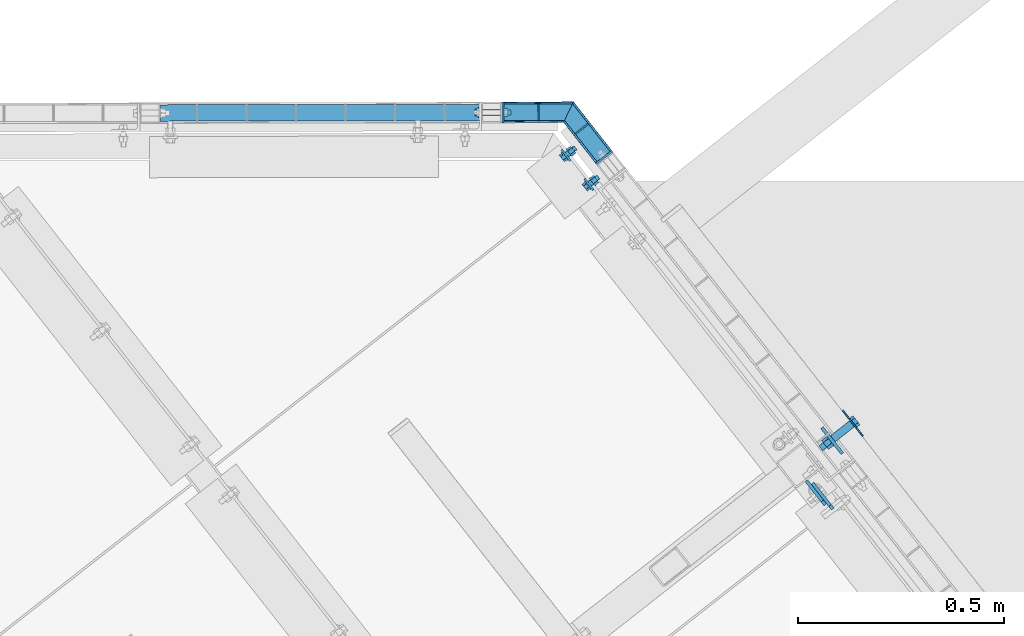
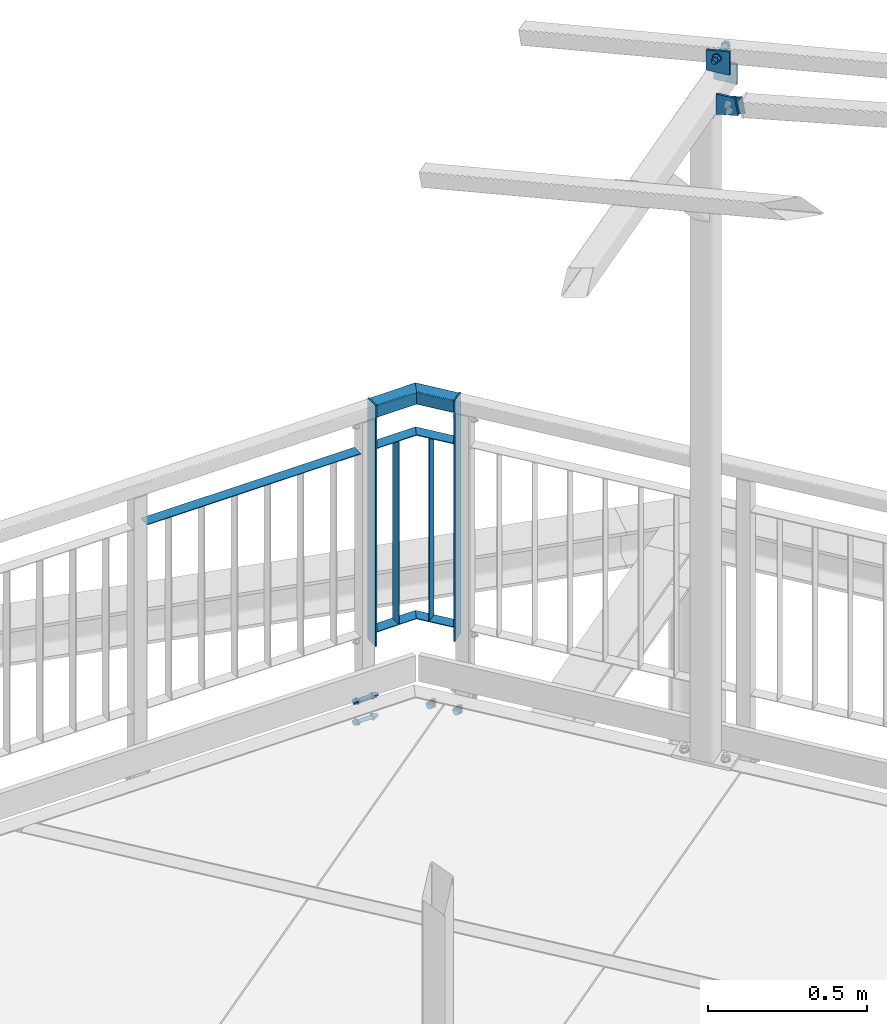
# One storey, part 131 of 169: 15 discrete accessories, 3 mechanical fasteners, 5 elements without a shape of their own.
"""IFC2X3 building model written with IfcOpenShell, lengths in millimetres."""

from ifc_helpers import new_model, si_unit, frame, frame_2d, origin_with_axes, origin_2d_with_axis, place, context, subcontext, project, spatial, polyline, circle_curve, parameter, trimmed, segment, composite_curve, rectangle, hollow_rectangle, circle, outline, extrude, boolean, clip, halfspace, source, transform, mapped, material, type_object, element, aggregate, save


model = new_model("IFC2X3")

# Units and contexts
model_context = context("Model", 3, precision=1e-05, world=origin_with_axes())
body_context = subcontext(model_context, "Body", "Model", "MODEL_VIEW")
ifc_project = project(units=[si_unit("LENGTHUNIT", "METRE", prefix="MILLI"), si_unit("AREAUNIT", "SQUARE_METRE"), si_unit("VOLUMEUNIT", "CUBIC_METRE"), si_unit("MASSUNIT", "GRAM", prefix="KILO"), si_unit("TIMEUNIT", "SECOND"), si_unit("PLANEANGLEUNIT", "RADIAN"), si_unit("SOLIDANGLEUNIT", "STERADIAN"), si_unit("THERMODYNAMICTEMPERATUREUNIT", "DEGREE_CELSIUS"), si_unit("LUMINOUSINTENSITYUNIT", "LUMEN")], contexts=[model_context])

# Site, building, storey
site_placement = place(None, origin_with_axes())
site = spatial("IfcSite", under=ifc_project, at=site_placement, Name="Undefined", CompositionType="ELEMENT")
building_placement = place(site_placement, origin_with_axes())
building = spatial("IfcBuilding", under=site, at=building_placement, Name="Undefined", CompositionType="ELEMENT")
storey_placement = place(building_placement, origin_with_axes())
storey = spatial("IfcBuildingStorey", under=building, at=storey_placement, Name="Undefined", CompositionType="ELEMENT", Elevation=0.0)

# Assembly, discrete accessories
assembly_1_placement = place(storey_placement, origin_with_axes())
assembly_1 = element("IfcElementAssembly", 1, at=assembly_1_placement, inside=storey, Name="Steel Assembly", AssemblyPlace="NOTDEFINED", PredefinedType="RIGID_FRAME")
ifc_material_1 = material(Name="STEEL/S235")
discrete_accessory_type_1 = type_object("IfcDiscreteAccessoryType", Name="BLACHA")
discrete_accessory_1_placement = place(assembly_1_placement, frame((21289.8657624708, 2194.79731966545, 13969.4175258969), z_axis=(-0.617242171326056, 0.786773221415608, 5.09999997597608e-08), x_axis=(-0.7867732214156, -0.61724217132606, -1.0406294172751e-07)))
discrete_accessory_1 = element("IfcDiscreteAccessory", 2, at=discrete_accessory_1_placement, type_object=discrete_accessory_type_1, material=ifc_material_1, Name="BLACHA", ObjectType="BL5*50", context=body_context, shape_type="SweptSolid", body=[
    extrude(outline(polyline([(0.0, 0.0), (50.0000000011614, 3.27418092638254e-11), (50.0000000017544, 926.000000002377), (3.10365066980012e-08, 926.000000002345), (0.0, 0.0)])), frame((6.80888809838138e-19, -2.87858853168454e-21, -2.49999999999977), z_axis=(0.0, 0.0, 1.0), x_axis=(1.0, 0.0, 0.0)), (0.0, 0.0, 1.0), 5.0),
])
discrete_accessory_2_placement = place(assembly_1_placement, frame((21024.910128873, 2313.31332923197, 13969.0829160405), z_axis=(-0.999998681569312, -0.00162384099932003, -2.17981851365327e-07), x_axis=(0.00162384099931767, -0.999998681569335, 1.10000109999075e-08)))
discrete_accessory_2 = element("IfcDiscreteAccessory", 3, at=discrete_accessory_2_placement, type_object=discrete_accessory_type_1, material=ifc_material_1, Name="BLACHA", ObjectType="BL5*50", context=body_context, shape_type="SweptSolid", body=[
    extrude(outline(polyline([(0.0, 0.0), (50.0000000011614, 3.27418092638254e-11), (50.0000000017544, 926.000000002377), (3.10365066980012e-08, 926.000000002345), (0.0, 0.0)])), frame((6.80888809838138e-19, -2.87858853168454e-21, -2.49999999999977), z_axis=(0.0, 0.0, 1.0), x_axis=(1.0, 0.0, 0.0)), (0.0, 0.0, 1.0), 5.0),
])

# Assembly, discrete accessory
assembly_2_placement = place(storey_placement, origin_with_axes())
assembly_2 = element("IfcElementAssembly", 4, at=assembly_2_placement, inside=storey, Name="Steel Assembly", AssemblyPlace="NOTDEFINED", PredefinedType="RIGID_FRAME")
discrete_accessory_3_placement = place(assembly_2_placement, frame((21798.1580663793, 1524.45016189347, 16364.2281772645), z_axis=(-0.7867732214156, -0.61724217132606, -1.0406294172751e-07), x_axis=(0.617242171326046, -0.786773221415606, 1.36000016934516e-07)))
discrete_accessory_3 = element("IfcDiscreteAccessory", 5, at=discrete_accessory_3_placement, type_object=discrete_accessory_type_1, material=ifc_material_1, Name="BLACHA", ObjectType="BL8*80", context=body_context, shape_type="SweptSolid", body=[
    extrude(outline(polyline([(0.0, 0.0), (80.0000000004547, 5.02041075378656e-10), (80.0000000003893, 89.9999999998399), (-2.08646997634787e-06, 77.0), (0.0, 0.0)])), frame((1.81942236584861e-12, -3.63797880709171e-12, -4.00000000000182), z_axis=(0.0, 0.0, 1.0), x_axis=(1.0, 0.0, 0.0)), (0.0, 0.0, 1.0), 8.0),
])

assembly_3_placement = place(storey_placement, origin_with_axes())
assembly_3 = element("IfcElementAssembly", 6, at=assembly_3_placement, inside=storey, Name="Steel Assembly", AssemblyPlace="NOTDEFINED", PredefinedType="RIGID_FRAME")
discrete_accessory_4_placement = place(assembly_3_placement, frame((21781.9768415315, 1381.2110054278, 16292.3305855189), z_axis=(0.786773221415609, 0.617242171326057, 0.0), x_axis=(-0.111881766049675, 0.142611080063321, 0.983435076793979)))
discrete_accessory_4 = element("IfcDiscreteAccessory", 7, at=discrete_accessory_4_placement, type_object=discrete_accessory_type_1, material=ifc_material_1, Name="BLACHA", ObjectType="BL8*60", context=body_context, shape_type="SweptSolid", body=[
    extrude(outline(polyline([(0.0, 0.0), (60.0000000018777, -8.8220986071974e-11), (60.0000000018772, 69.999999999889), (1.4915713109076e-10, 69.9999999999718), (0.0, 0.0)])), frame((1.81942236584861e-12, -3.63797880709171e-12, -4.00000000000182), z_axis=(0.0, 0.0, 1.0), x_axis=(1.0, 0.0, 0.0)), (0.0, 0.0, 1.0), 8.0),
])
aggregate(assembly_3, [discrete_accessory_4])

# Discrete accessory
discrete_accessory_5_placement = place(assembly_2_placement, frame((21760.1858504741, 1396.02620870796, 16285.160995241), z_axis=(0.786773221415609, 0.617242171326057, 0.0), x_axis=(0.0, 0.0, 1.0)))
discrete_accessory_5 = element("IfcDiscreteAccessory", 8, at=discrete_accessory_5_placement, type_object=discrete_accessory_type_1, material=ifc_material_1, Name="BLACHA", ObjectType="BL8*75", context=body_context, shape_type="SweptSolid", body=[
    extrude(outline(polyline([(0.0, 0.0), (77.697319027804, 2.60843080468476e-09), (77.6973190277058, 62.949481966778), (13.7740383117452, 74.7314300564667), (0.0, 0.0)])), frame((1.81942236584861e-12, -3.63797880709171e-12, -4.00000000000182), z_axis=(0.0, 0.0, 1.0), x_axis=(1.0, 0.0, 0.0)), (0.0, 0.0, 1.0), 8.0),
])

discrete_accessory_6_placement = place(assembly_2_placement, frame((21897.4777573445, 1503.73495867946, 16364.2281930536), z_axis=(-0.7867732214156, -0.61724217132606, -1.0406294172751e-07), x_axis=(-0.617242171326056, 0.786773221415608, 5.09999997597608e-08)))
discrete_accessory_6 = element("IfcDiscreteAccessory", 9, at=discrete_accessory_6_placement, type_object=discrete_accessory_type_1, material=ifc_material_1, Name="BLACHA", ObjectType="BL3*80", context=body_context, shape_type="SweptSolid", body=[
    extrude(outline(polyline([(0.0, 0.0), (80.0000000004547, 5.02041075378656e-10), (80.0000000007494, 80.0000000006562), (1.40171323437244e-08, 80.0000000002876), (0.0, 0.0)])), frame((1.81898940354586e-12, -1.77635442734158e-15, -1.50000000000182), z_axis=(0.0, 0.0, 1.0), x_axis=(1.0, 0.0, 0.0)), (0.0, 0.0, 1.0), 3.0),
])

discrete_accessory_type_2 = type_object("IfcDiscreteAccessoryType", Name="PORĘCZ")
discrete_accessory_7_placement = place(assembly_1_placement, frame((20997.453236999, 2288.26849008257, 14870.1939115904), z_axis=(0.0058959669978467, -0.999982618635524, 2.99999919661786e-09), x_axis=(0.999982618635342, 0.00589596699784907, 6.02999999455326e-07)))
discrete_accessory_7 = element("IfcDiscreteAccessory", 10, at=discrete_accessory_7_placement, type_object=discrete_accessory_type_2, material=ifc_material_1, Name="PORĘCZ", ObjectType="RHS50*3", context=body_context, shape_type="CSG", body=[
    boolean("DIFFERENCE", boolean("DIFFERENCE", boolean("DIFFERENCE", extrude(hollow_rectangle(XDim=50.0, YDim=50.0, WallThickness=3.0, InnerFilletRadius=3.0, OuterFilletRadius=6.0, at=origin_2d_with_axis()), frame((199.013606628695, -1.81898938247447e-12, 1.09515241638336e-16), z_axis=(-1.0, -3.46944695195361e-18, -1.38777878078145e-17), x_axis=(1.73472347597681e-18, -1.0, 0.0)), (0.0, 0.0, 1.0), 169.02), extrude(rectangle(XDim=51.0, YDim=51.0, at=origin_2d_with_axis()), frame((6.11825301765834e-05, 140.000000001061, 3.99186644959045e-07), z_axis=(1.73472347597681e-18, -1.0, 0.0), x_axis=(0.999990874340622, -4.37007533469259e-07, 0.00427214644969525)), (0.0, 0.0, 1.0), 280.0)), halfspace(frame((174.194052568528, -7.45715260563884e-06, 25.000007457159), z_axis=(0.897939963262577, -1.31576074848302e-07, 0.440117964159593), x_axis=(0.0, 1.0, 0.0)), False)), halfspace(frame((25.7254647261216, -1.1155480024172e-06, 1000.00155470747), z_axis=(0.999990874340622, -4.37007533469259e-07, 0.00427214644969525), x_axis=(0.0, 1.0, 0.0)), True)),
])

discrete_accessory_8_placement = place(assembly_1_placement, frame((21116.8116190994, 2374.8795197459, 14870.1940164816), z_axis=(-0.7867732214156, -0.61724217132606, -1.0406294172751e-07), x_axis=(0.617242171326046, -0.786773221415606, 1.36000016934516e-07)))
discrete_accessory_8 = element("IfcDiscreteAccessory", 11, at=discrete_accessory_8_placement, type_object=discrete_accessory_type_2, material=ifc_material_1, Name="PORĘCZ", ObjectType="RHS50*3", context=body_context, shape_type="CSG", body=[
    boolean("DIFFERENCE", boolean("DIFFERENCE", boolean("DIFFERENCE", extrude(hollow_rectangle(XDim=50.0, YDim=50.0, WallThickness=3.0, InnerFilletRadius=3.0, OuterFilletRadius=6.0, at=origin_2d_with_axis()), frame((246.000017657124, -1.81898940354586e-12, 3.64763719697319e-12), z_axis=(-1.0, -3.46944695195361e-18, -1.38777878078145e-17), x_axis=(1.73472347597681e-18, -1.0, 0.0)), (0.0, 0.0, 1.0), 189.31), extrude(rectangle(XDim=51.0, YDim=51.0, at=origin_2d_with_axis()), frame((276.00000467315, 140.000000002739, -6.08064044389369e-06), z_axis=(1.73472347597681e-18, -1.0, 0.0), x_axis=(1.0, 0.0, 0.0)), (0.0, 0.0, 1.0), 280.0)), halfspace(frame((246.000017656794, -7.43093551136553e-08, 1000.00000000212), z_axis=(-1.0, -3.46944695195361e-18, -1.38777878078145e-17), x_axis=(1.73472347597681e-18, -1.0, 0.0)), True)), halfspace(frame((120.940184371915, -1.93322121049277e-05, 25.0000120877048), z_axis=(0.897940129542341, 2.1250175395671e-07, -0.440117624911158), x_axis=(0.0, 1.0, 0.0)), True)),
])

discrete_accessory_9_placement = place(assembly_1_placement, frame((20997.4532610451, 2288.26849008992, 14725.4170007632), z_axis=(-2.54700353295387e-10, 0.0, -1.0), x_axis=(0.999982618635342, 0.00589596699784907, 6.02999999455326e-07)))
discrete_accessory_9 = element("IfcDiscreteAccessory", 12, at=discrete_accessory_9_placement, type_object=discrete_accessory_type_2, material=ifc_material_1, Name="PORĘCZ", ObjectType="BL40*3", context=body_context, shape_type="CSG", body=[
    boolean("DIFFERENCE", boolean("DIFFERENCE", boolean("DIFFERENCE", boolean("DIFFERENCE", extrude(outline(polyline([(29.9122117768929, 19.9999999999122), (176.644769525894, 19.9999999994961), (196.250435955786, -20.0000000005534), (30.0830991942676, -20.0000000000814), (29.9122117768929, 19.9999999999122)])), frame((1.81898940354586e-12, -1.77635442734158e-15, -1.50000000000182), z_axis=(0.0, 0.0, 1.0), x_axis=(1.0, 0.0, 0.0)), (0.0, 0.0, 1.0), 3.0), extrude(rectangle(XDim=51.0, YDim=51.0, at=origin_2d_with_axis()), frame((6.11802382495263e-05, -1.9546552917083e-08, -140.000000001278), z_axis=(0.0, 0.0, 1.0), x_axis=(0.999990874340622, 0.0042721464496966, 4.36994717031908e-07)), (0.0, 0.0, 1.0), 280.0)), halfspace(frame((25.7254634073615, 1000.00155470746, 1.11687586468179e-06), z_axis=(0.999990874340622, 0.0042721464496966, 4.36994717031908e-07), x_axis=(-2.54700353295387e-10, 0.0, -1.0)), True)), halfspace(frame((176.644769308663, 20.0000004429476, 5.90572017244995e-06), z_axis=(0.897940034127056, 0.440117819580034, 1.30255678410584e-07), x_axis=(-2.54700353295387e-10, 0.0, -1.0)), False)), halfspace(frame((20.7275651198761, 1000.09767800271, 1.11496665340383e-05), z_axis=(0.999990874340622, 0.0042721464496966, 4.36994717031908e-07), x_axis=(-2.54700353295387e-10, 0.0, -1.0)), True)),
])

discrete_accessory_10_placement = place(assembly_1_placement, frame((21111.3801789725, 2288.45341239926, 14870.4174027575), z_axis=(-0.999998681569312, -0.00162384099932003, -2.17981851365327e-07), x_axis=(-2.54700353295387e-10, 0.0, -1.0)))
discrete_accessory_10 = element("IfcDiscreteAccessory", 13, at=discrete_accessory_10_placement, type_object=discrete_accessory_type_2, material=ifc_material_1, Name="PORĘCZ", ObjectType="BL40*3", context=body_context, shape_type="Clipping", body=[
    clip(clip(clip(extrude(outline(polyline([(848.499998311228, 19.9999999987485), (848.49994972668, -20.0000000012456), (146.500332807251, -20.0000000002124), (146.500381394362, 19.9999999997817), (848.499998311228, 19.9999999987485)])), frame((1.81898940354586e-12, -1.77635442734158e-15, -1.50000000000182), z_axis=(0.0, 0.0, 1.0), x_axis=(1.0, 0.0, 0.0)), (0.0, 0.0, 1.0), 3.0), halfspace(frame((146.500339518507, 1000.00000006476, -1.23327481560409e-09), z_axis=(1.0, 0.0, 0.0), x_axis=(-2.54700353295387e-10, 0.0, -1.0)), True)), halfspace(frame((25.3344726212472, 999.999999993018, -4.64569893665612e-09), z_axis=(1.0, 0.0, 0.0), x_axis=(-2.54700353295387e-10, 0.0, -1.0)), True)), halfspace(frame((848.499956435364, 999.999999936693, 2.33558239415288e-09), z_axis=(-1.0, -3.46944695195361e-18, -1.38777878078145e-17), x_axis=(0.0, 0.0, 1.0)), True)),
])

discrete_accessory_11_placement = place(assembly_1_placement, frame((20997.4533202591, 2288.2684146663, 14020.4173838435), z_axis=(-2.54700353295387e-10, 0.0, -1.0), x_axis=(0.999982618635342, 0.00589596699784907, 6.02999999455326e-07)))
discrete_accessory_11 = element("IfcDiscreteAccessory", 14, at=discrete_accessory_11_placement, type_object=discrete_accessory_type_2, material=ifc_material_1, Name="PORĘCZ", ObjectType="BL40*3", context=body_context, shape_type="CSG", body=[
    boolean("DIFFERENCE", boolean("DIFFERENCE", boolean("DIFFERENCE", boolean("DIFFERENCE", extrude(outline(polyline([(29.9122633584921, 19.9999999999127), (176.644769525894, 19.9999999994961), (196.250435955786, -20.0000000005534), (30.0831507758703, -20.0000000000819), (29.9122633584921, 19.9999999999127)])), frame((1.81898940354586e-12, -1.77635442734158e-15, -1.50000000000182), z_axis=(0.0, 0.0, 1.0), x_axis=(1.0, 0.0, 0.0)), (0.0, 0.0, 1.0), 3.0), extrude(rectangle(XDim=51.0, YDim=51.0, at=origin_2d_with_axis()), frame((6.11802382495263e-05, -1.9546552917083e-08, -140.000000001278), z_axis=(0.0, 0.0, 1.0), x_axis=(0.999990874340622, 0.0042721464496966, 4.36994717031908e-07)), (0.0, 0.0, 1.0), 280.0)), halfspace(frame((25.725514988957, 1000.00155470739, 1.11688677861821e-06), z_axis=(0.999990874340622, 0.0042721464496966, 4.36994717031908e-07), x_axis=(-2.54700353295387e-10, 0.0, -1.0)), True)), halfspace(frame((176.644769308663, 20.0000004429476, 5.90572017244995e-06), z_axis=(0.897940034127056, 0.440117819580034, 1.30255678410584e-07), x_axis=(-2.54700353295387e-10, 0.0, -1.0)), False)), halfspace(frame((20.7276167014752, 1000.09767800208, 1.11496865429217e-05), z_axis=(0.999990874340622, 0.0042721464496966, 4.36994717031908e-07), x_axis=(-2.54700353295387e-10, 0.0, -1.0)), True)),
])

discrete_accessory_12_placement = place(assembly_1_placement, frame((21116.811643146, 2374.87951975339, 14725.4171056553), z_axis=(-2.54700353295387e-10, 0.0, -1.0), x_axis=(0.617242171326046, -0.786773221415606, 1.36000016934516e-07)))
discrete_accessory_12 = element("IfcDiscreteAccessory", 15, at=discrete_accessory_12_placement, type_object=discrete_accessory_type_2, material=ifc_material_1, Name="PORĘCZ", ObjectType="BL40*3", context=body_context, shape_type="CSG", body=[
    boolean("DIFFERENCE", boolean("DIFFERENCE", boolean("DIFFERENCE", boolean("DIFFERENCE", extrude(outline(polyline([(118.489475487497, 20.0000000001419), (246.00002696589, 20.0000000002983), (246.000026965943, -19.9999999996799), (98.8838118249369, -19.9999999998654), (118.489475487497, 20.0000000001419)])), frame((1.81898940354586e-12, -1.77635442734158e-15, -1.50000000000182), z_axis=(0.0, 0.0, 1.0), x_axis=(1.0, 0.0, 0.0)), (0.0, 0.0, 1.0), 3.0), extrude(rectangle(XDim=51.0, YDim=51.0, at=origin_2d_with_axis()), frame((276.000004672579, 1.82819056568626e-05, -140.000000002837), z_axis=(0.0, 0.0, 1.0), x_axis=(1.0, 0.0, 0.0)), (0.0, 0.0, 1.0), 280.0)), halfspace(frame((246.000026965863, 999.999999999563, 7.6954165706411e-08), z_axis=(-1.0, -3.46944695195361e-18, -1.38777878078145e-17), x_axis=(0.0, 0.0, 1.0)), True)), halfspace(frame((118.489475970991, 20.000000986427, 2.03955005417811e-05), z_axis=(0.897940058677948, -0.440117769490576, -2.89082312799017e-07), x_axis=(-2.54700353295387e-10, 0.0, -1.0)), True)), halfspace(frame((251.000018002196, 999.999999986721, 0.000130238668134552), z_axis=(-1.0, -3.46944695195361e-18, -1.38777878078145e-17), x_axis=(0.0, 0.0, 1.0)), True)),
])

discrete_accessory_13_placement = place(assembly_1_placement, frame((21215.9941199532, 2248.45551035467, 14870.4175105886), z_axis=(-0.617242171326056, 0.786773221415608, 5.09999997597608e-08), x_axis=(-2.54700353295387e-10, 0.0, -1.0)))
discrete_accessory_13 = element("IfcDiscreteAccessory", 16, at=discrete_accessory_13_placement, type_object=discrete_accessory_type_2, material=ifc_material_1, Name="PORĘCZ", ObjectType="BL40*3", context=body_context, shape_type="Clipping", body=[
    clip(clip(clip(extrude(outline(polyline([(848.499998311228, 19.9999999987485), (848.500000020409, -20.000000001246), (146.500383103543, -20.0000000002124), (146.500381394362, 19.9999999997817), (848.499998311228, 19.9999999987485)])), frame((1.81898940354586e-12, -1.77635442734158e-15, -1.50000000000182), z_axis=(0.0, 0.0, 1.0), x_axis=(1.0, 0.0, 0.0)), (0.0, 0.0, 1.0), 3.0), halfspace(frame((146.500339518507, 1000.00000006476, -1.23327481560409e-09), z_axis=(1.0, 0.0, 0.0), x_axis=(-2.54700353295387e-10, 0.0, -1.0)), True)), halfspace(frame((24.9999999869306, 1000.00000000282, -1.78988557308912e-09), z_axis=(1.0, 0.0, 0.0), x_axis=(-2.54700353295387e-10, 0.0, -1.0)), True)), halfspace(frame((848.499956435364, 999.999999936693, 2.33558239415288e-09), z_axis=(-1.0, -3.46944695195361e-18, -1.38777878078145e-17), x_axis=(0.0, 0.0, 1.0)), True)),
])

discrete_accessory_14_placement = place(assembly_1_placement, frame((21116.8117023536, 2374.87944433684, 14020.4174887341), z_axis=(-2.54700353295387e-10, 0.0, -1.0), x_axis=(0.617242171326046, -0.786773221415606, 1.36000016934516e-07)))
discrete_accessory_14 = element("IfcDiscreteAccessory", 17, at=discrete_accessory_14_placement, type_object=discrete_accessory_type_2, material=ifc_material_1, Name="PORĘCZ", ObjectType="BL40*3", context=body_context, shape_type="CSG", body=[
    boolean("DIFFERENCE", boolean("DIFFERENCE", boolean("DIFFERENCE", boolean("DIFFERENCE", extrude(outline(polyline([(118.489475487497, 20.0000000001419), (246.00002696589, 20.0000000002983), (246.000026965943, -19.9999999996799), (98.8838118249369, -19.9999999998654), (118.489475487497, 20.0000000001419)])), frame((1.81898940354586e-12, -1.77635442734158e-15, -1.50000000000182), z_axis=(0.0, 0.0, 1.0), x_axis=(1.0, 0.0, 0.0)), (0.0, 0.0, 1.0), 3.0), extrude(rectangle(XDim=51.0, YDim=51.0, at=origin_2d_with_axis()), frame((276.000004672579, 1.82819056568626e-05, -140.000000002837), z_axis=(0.0, 0.0, 1.0), x_axis=(1.0, 0.0, 0.0)), (0.0, 0.0, 1.0), 280.0)), halfspace(frame((246.000026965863, 999.999999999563, 7.6954165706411e-08), z_axis=(-1.0, -3.46944695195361e-18, -1.38777878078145e-17), x_axis=(0.0, 0.0, 1.0)), True)), halfspace(frame((118.489475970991, 20.000000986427, 2.03955005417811e-05), z_axis=(0.897940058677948, -0.440117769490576, -2.89082312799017e-07), x_axis=(-2.54700353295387e-10, 0.0, -1.0)), True)), halfspace(frame((251.000018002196, 999.999999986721, 0.000130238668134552), z_axis=(-1.0, -3.46944695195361e-18, -1.38777878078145e-17), x_axis=(0.0, 0.0, 1.0)), True)),
])

discrete_accessory_15_placement = place(assembly_1_placement, frame((20169.6000500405, 2286.92418630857, 14725.4168633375), z_axis=(-2.54700353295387e-10, 0.0, -1.0), x_axis=(0.999998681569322, 0.00162384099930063, 1.65999999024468e-07)))
discrete_accessory_15 = element("IfcDiscreteAccessory", 18, at=discrete_accessory_15_placement, type_object=discrete_accessory_type_2, material=ifc_material_1, Name="PORĘCZ", ObjectType="BL40*3", context=body_context, shape_type="CSG", body=[
    boolean("DIFFERENCE", boolean("DIFFERENCE", boolean("DIFFERENCE", boolean("DIFFERENCE", extrude(outline(polyline([(25.4999999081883, 20.0000000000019), (802.354302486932, 19.9999999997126), (802.354302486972, -20.0000000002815), (25.499999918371, -19.9999999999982), (25.4999999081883, 20.0000000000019)])), frame((1.81898940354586e-12, -1.77635442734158e-15, -1.50000000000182), z_axis=(0.0, 0.0, 1.0), x_axis=(1.0, 0.0, 0.0)), (0.0, 0.0, 1.0), 3.0), extrude(rectangle(XDim=51.0, YDim=51.0, at=origin_2d_with_axis()), frame((-5.94487782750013e-08, -4.65977194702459e-09, -139.999999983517), z_axis=(0.0, 0.0, 1.0), x_axis=(1.0, 0.0, 0.0)), (0.0, 0.0, 1.0), 280.0)), extrude(rectangle(XDim=51.0, YDim=51.0, at=origin_2d_with_axis()), frame((827.854302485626, 5.24229277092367e-08, -140.000000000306), z_axis=(0.0, 0.0, 1.0), x_axis=(1.0, 0.0, 0.0)), (0.0, 0.0, 1.0), 280.0)), halfspace(frame((24.9999397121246, 1000.00000000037, 2.22098606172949e-07), z_axis=(1.0, 0.0, 0.0), x_axis=(-2.54700353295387e-10, 0.0, -1.0)), True)), halfspace(frame((802.854242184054, 1000.00000000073, -2.27479176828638e-07), z_axis=(-1.0, -3.46944695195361e-18, -1.38777878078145e-17), x_axis=(0.0, 0.0, 1.0)), True)),
])

aggregate(assembly_1, [discrete_accessory_7, discrete_accessory_8, discrete_accessory_9, discrete_accessory_10, discrete_accessory_11, discrete_accessory_12, discrete_accessory_13, discrete_accessory_14, discrete_accessory_15, discrete_accessory_1, discrete_accessory_2])

# Assembly, mechanical fastener
assembly_4_placement = place(storey_placement, origin_with_axes())
assembly_4 = element("IfcElementAssembly", 19, at=assembly_4_placement, inside=storey, Name="Steel Assembly", AssemblyPlace="NOTDEFINED", PredefinedType="RIGID_FRAME")
ifc_material_2 = material(Name="Undefined")
discrete_accessory_type_3 = type_object("IfcDiscreteAccessoryType", Name="Bolt assembly")
shared_shape_1 = source(origin_with_axes(), body_context, "Body", "SweptSolid", [
    extrude(circle(Radius=7.5, at=origin_2d_with_axis()), frame((0.0, 4.89999999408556, 0.0), z_axis=(0.0, 1.0, 0.0), x_axis=(1.0, 0.0, 0.0)), (0.0, 0.0, 1.0), 7.1),
    extrude(outline(composite_curve([segment(polyline([(-10.0, 7.5), (10.0, 7.5)]), True, "CONTINUOUS"), segment(trimmed(circle_curve(frame_2d((10.0, 0.0), x_axis=(0.0, 1.0)), 7.5), [parameter(0.0)], [parameter(3.14159265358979)], False, "PARAMETER"), True, "CONTINUOUS"), segment(polyline([(10.0, -7.5), (-10.0, -7.5)]), True, "CONTINUOUS"), segment(trimmed(circle_curve(frame_2d((-10.0, 0.0), x_axis=(0.0, -1.0)), 7.5), [parameter(0.0)], [parameter(3.14159265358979)], False, "PARAMETER"), True, "DISCONTINUOUS")], self_intersect=False)), frame((0.0, 0.100000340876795, 0.0), z_axis=(0.0, 1.0, 0.0), x_axis=(1.0, 0.0, 0.0)), (0.0, 0.0, 1.0), 5.0),
    extrude(outline(polyline([(10.39230484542, 0.0), (5.19615242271, 9.00000000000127), (-5.19615242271, 9.00000000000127), (-10.39230484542, 0.0), (-5.19615242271, -9.00000000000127), (5.19615242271, -9.00000000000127), (10.39230484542, 0.0)])), frame((0.0, -10.4999989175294, 0.0), z_axis=(0.0, 1.0, 0.0), x_axis=(1.0, 0.0, 0.0)), (0.0, 0.0, 1.0), 7.5),
    extrude(circle(Radius=6.0, at=origin_2d_with_axis()), frame((0.0, -3.00000607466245, 0.0), z_axis=(0.0, 1.0, 0.0), x_axis=(1.0, 0.0, 0.0)), (0.0, 0.0, 1.0), 35.0),
    extrude(circle(Radius=12.0, at=origin_2d_with_axis()), frame((0.0, -3.00000607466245, 0.0), z_axis=(0.0, 1.0, 0.0), x_axis=(1.0, 0.0, 0.0)), (0.0, 0.0, 1.0), 3.0),
    extrude(circle(Radius=12.0, at=origin_2d_with_axis()), frame((0.0, 12.000000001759, 0.0), z_axis=(0.0, 1.0, 0.0), x_axis=(1.0, 0.0, 0.0)), (0.0, 0.0, 1.0), 3.0),
    extrude(outline(polyline([(10.96965511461, 0.0), (5.484827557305, 9.50000000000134), (-5.484827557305, 9.50000000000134), (-10.96965511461, 0.0), (-5.484827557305, -9.50000000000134), (5.484827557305, -9.50000000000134), (10.96965511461, 0.0)])), frame((0.0, 14.9999935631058, 0.0), z_axis=(0.0, 1.0, 0.0), x_axis=(1.0, 0.0, 0.0)), (0.0, 0.0, 1.0), 10.0),
])
mechanical_fastener_1_placement = place(assembly_4_placement, frame((21231.2724296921, 2112.3332569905, 13740.4181959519), z_axis=(-2.54700353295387e-10, 0.0, -1.0), x_axis=(-0.617242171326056, 0.786773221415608, 5.09999997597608e-08)))
mechanical_fastener_1 = element("IfcMechanicalFastener", 20, at=mechanical_fastener_1_placement, type_object=discrete_accessory_type_3, material=ifc_material_2, Name="Bolt assembly", NominalDiameter=12.0, NominalLength=35.0, context=body_context, shape_type="MappedRepresentation", body=[
    mapped(shared_shape_1, transform((0.0, 0.0, 0.0))),
    mapped(shared_shape_1, transform((90.0000000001, 4.72937244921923e-11, 3.27418092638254e-11))),
])
aggregate(assembly_4, [mechanical_fastener_1])

assembly_5_placement = place(storey_placement, origin_with_axes())
assembly_5 = element("IfcElementAssembly", 21, at=assembly_5_placement, inside=storey, Name="Steel Assembly", AssemblyPlace="NOTDEFINED", PredefinedType="RIGID_FRAME")
shared_shape_2 = source(origin_with_axes(), body_context, "Body", "SweptSolid", [
    extrude(circle(Radius=7.5, at=origin_2d_with_axis()), frame((0.0, 4.89999999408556, 0.0), z_axis=(0.0, 1.0, 0.0), x_axis=(1.0, 0.0, 0.0)), (0.0, 0.0, 1.0), 50.1),
    extrude(outline(composite_curve([segment(polyline([(7.5, 7.5), (7.5, -7.5)]), True, "CONTINUOUS"), segment(trimmed(circle_curve(frame_2d((0.0, -7.5), x_axis=(1.0, 0.0)), 7.5), [parameter(0.0)], [parameter(3.14159265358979)], False, "PARAMETER"), True, "CONTINUOUS"), segment(polyline([(-7.5, -7.5), (-7.5, 7.5)]), True, "CONTINUOUS"), segment(trimmed(circle_curve(frame_2d((0.0, 7.5), x_axis=(-1.0, 0.0)), 7.5), [parameter(0.0)], [parameter(3.14159265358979)], False, "PARAMETER"), True, "DISCONTINUOUS")], self_intersect=False)), frame((0.0, 0.100000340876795, 0.0), z_axis=(0.0, 1.0, 0.0), x_axis=(1.0, 0.0, 0.0)), (0.0, 0.0, 1.0), 5.0),
    extrude(outline(polyline([(10.39230484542, 0.0), (5.19615242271, 9.00000000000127), (-5.19615242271, 9.00000000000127), (-10.39230484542, 0.0), (-5.19615242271, -9.00000000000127), (5.19615242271, -9.00000000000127), (10.39230484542, 0.0)])), frame((0.0, -10.4999989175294, 0.0), z_axis=(0.0, 1.0, 0.0), x_axis=(1.0, 0.0, 0.0)), (0.0, 0.0, 1.0), 7.5),
    extrude(circle(Radius=6.0, at=origin_2d_with_axis()), frame((0.0, -3.00000607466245, 0.0), z_axis=(0.0, 1.0, 0.0), x_axis=(1.0, 0.0, 0.0)), (0.0, 0.0, 1.0), 80.0),
    extrude(circle(Radius=12.0, at=origin_2d_with_axis()), frame((0.0, -3.00000607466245, 0.0), z_axis=(0.0, 1.0, 0.0), x_axis=(1.0, 0.0, 0.0)), (0.0, 0.0, 1.0), 3.0),
    extrude(circle(Radius=12.0, at=origin_2d_with_axis()), frame((0.0, 54.9999999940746, 0.0), z_axis=(0.0, 1.0, 0.0), x_axis=(1.0, 0.0, 0.0)), (0.0, 0.0, 1.0), 3.0),
    extrude(outline(polyline([(10.96965511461, 0.0), (5.484827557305, 9.50000000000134), (-5.484827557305, 9.50000000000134), (-10.96965511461, 0.0), (-5.484827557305, -9.50000000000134), (5.484827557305, -9.50000000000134), (10.96965511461, 0.0)])), frame((0.0, 57.9999999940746, 0.0), z_axis=(0.0, 1.0, 0.0), x_axis=(1.0, 0.0, 0.0)), (0.0, 0.0, 1.0), 10.0),
])
mechanical_fastener_2_placement = place(assembly_5_placement, frame((20967.4534070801, 2288.21967112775, 13684.9825333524), z_axis=(-0.00162384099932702, 0.999998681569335, -1.10000109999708e-08), x_axis=(0.0, 0.0, 1.0)))
mechanical_fastener_2 = element("IfcMechanicalFastener", 22, at=mechanical_fastener_2_placement, type_object=discrete_accessory_type_3, material=ifc_material_2, Name="Bolt assembly", NominalDiameter=12.0, NominalLength=80.0, context=body_context, shape_type="MappedRepresentation", body=[
    mapped(shared_shape_2, transform((0.0, 0.0, 0.0))),
    mapped(shared_shape_2, transform((79.9999999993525, -4.5446979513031e-13, -4.53637127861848e-13))),
])
aggregate(assembly_5, [mechanical_fastener_2])

# Mechanical fastener
shared_shape_3 = source(origin_with_axes(), body_context, "Body", "SweptSolid", [
    extrude(circle(Radius=9.5, at=origin_2d_with_axis()), frame((0.0, -47.8999963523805, 0.0), z_axis=(0.0, 1.0, 0.0), x_axis=(1.0, 0.0, 0.0)), (0.0, 0.0, 1.0), 60.0),
    extrude(outline(composite_curve([segment(polyline([(9.5, 7.5), (9.5, -7.5)]), True, "CONTINUOUS"), segment(trimmed(circle_curve(frame_2d((0.0, -7.5), x_axis=(1.0, 0.0)), 9.5), [parameter(0.0)], [parameter(3.14159265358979)], False, "PARAMETER"), True, "CONTINUOUS"), segment(polyline([(-9.5, -7.5), (-9.5, 7.5)]), True, "CONTINUOUS"), segment(trimmed(circle_curve(frame_2d((0.0, 7.5), x_axis=(-1.0, 0.0)), 9.5), [parameter(0.0)], [parameter(3.14159265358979)], False, "PARAMETER"), True, "DISCONTINUOUS")], self_intersect=False)), frame((0.0, 11.7557750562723, 0.0), z_axis=(0.0, 1.0, 0.0), x_axis=(1.0, 0.0, 0.0)), (0.0, 0.0, 1.0), 8.1),
    extrude(outline(polyline([(13.85640646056, 0.0), (6.92820323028, 12.0000000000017), (-6.92820323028, 12.0000000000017), (-13.85640646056, 0.0), (-6.92820323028, -12.0000000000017), (6.92820323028, -12.0000000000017), (13.85640646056, 0.0)])), frame((0.0, -60.9999963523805, 0.0), z_axis=(0.0, 1.0, 0.0), x_axis=(1.0, 0.0, 0.0)), (0.0, 0.0, 1.0), 10.0),
    extrude(circle(Radius=8.0, at=origin_2d_with_axis()), frame((0.0, -50.9999963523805, 0.0), z_axis=(0.0, 1.0, 0.0), x_axis=(1.0, 0.0, 0.0)), (0.0, 0.0, 1.0), 100.0),
    extrude(circle(Radius=15.0, at=origin_2d_with_axis()), frame((0.0, -50.9999963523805, 0.0), z_axis=(0.0, 1.0, 0.0), x_axis=(1.0, 0.0, 0.0)), (0.0, 0.0, 1.0), 3.0),
    extrude(circle(Radius=15.0, at=origin_2d_with_axis()), frame((0.0, 19.855775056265, 0.0), z_axis=(0.0, 1.0, 0.0), x_axis=(1.0, 0.0, 0.0)), (0.0, 0.0, 1.0), 3.0),
    extrude(outline(polyline([(13.85640646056, 0.0), (6.92820323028, 12.0000000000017), (-6.92820323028, 12.0000000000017), (-13.85640646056, 0.0), (-6.92820323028, -12.0000000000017), (6.92820323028, -12.0000000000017), (13.85640646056, 0.0)])), frame((0.0, 22.855775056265, 0.0), z_axis=(0.0, 1.0, 0.0), x_axis=(1.0, 0.0, 0.0)), (0.0, 0.0, 1.0), 13.0),
])
mechanical_fastener_3_placement = place(assembly_2_placement, frame((21833.8410292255, 1504.65464050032, 16422.225445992), z_axis=(4.23070098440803e-05, -5.39270125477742e-05, -0.999999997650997), x_axis=(0.617242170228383, -0.786773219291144, 6.8542000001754e-05)))
mechanical_fastener_3 = element("IfcMechanicalFastener", 23, at=mechanical_fastener_3_placement, type_object=discrete_accessory_type_3, material=ifc_material_2, Name="Bolt assembly", NominalDiameter=16.0, NominalLength=100.0, context=body_context, shape_type="MappedRepresentation", body=[
    mapped(shared_shape_3, transform((0.0, 0.0, 0.0))),
])

aggregate(assembly_2, [mechanical_fastener_3, discrete_accessory_3, discrete_accessory_5, discrete_accessory_6])

save(model, "model.ifc")
